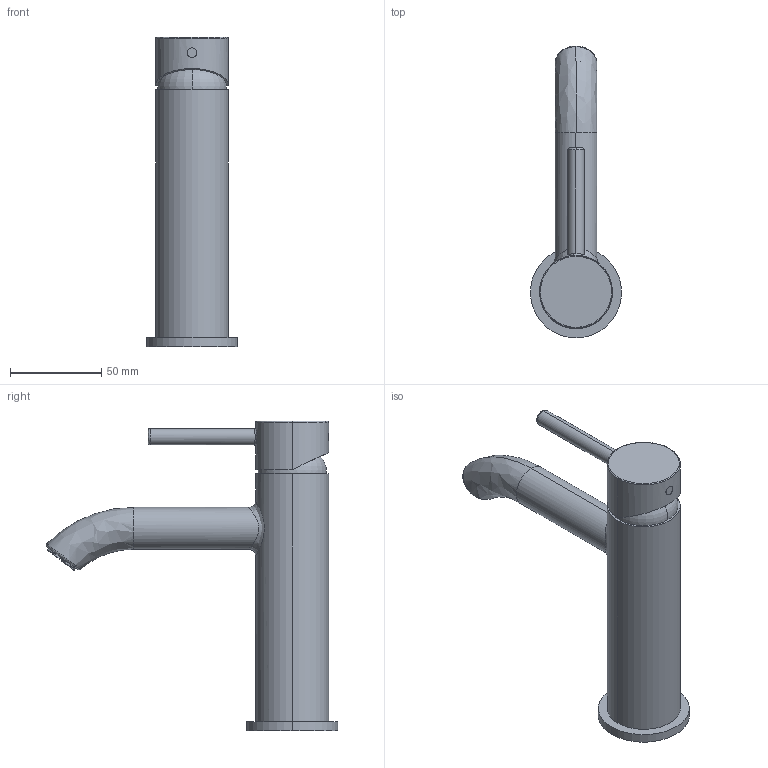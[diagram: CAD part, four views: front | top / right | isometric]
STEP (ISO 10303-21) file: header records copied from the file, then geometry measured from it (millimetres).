
FILE_DESCRIPTION (( 'STEP AP214' ), '1' );
FILE_NAME ('023045 x architetti.STEP', '2024-11-13T10:57:50', ( '' ), ( '' ), 'SwSTEP 2.0', 'SolidWorks 2020', '' );
FILE_SCHEMA (( 'AUTOMOTIVE_DESIGN' ));
Length unit declared in the file: millimetre
Products named in the file (3): 023045 x architetti; F0005599       
Assembly tree (2 placements, depth 2):
  023045 x architetti
    023045 x architetti
    F0005599       
Bounding box: 50 x 159.95 x 169.8 mm (x, y, z)
Volume: 265635.2 mm3; surface area: 40987.8 mm2
Topology: 3 solids, 3 shells, 3921 faces, 11327 edges, 7333 vertices
Faces by surface type: plane 3344, cylinder 421, bspline 142, cone 12, torus 2
Entity records: 160261 total; most frequent: CARTESIAN_POINT 51651, ORIENTED_EDGE 22654, DIRECTION 13626, EDGE_CURVE 11327, VERTEX_POINT 7333, VECTOR 5208, LINE 5208, B_SPLINE_CURVE_WITH_KNOTS 5060
